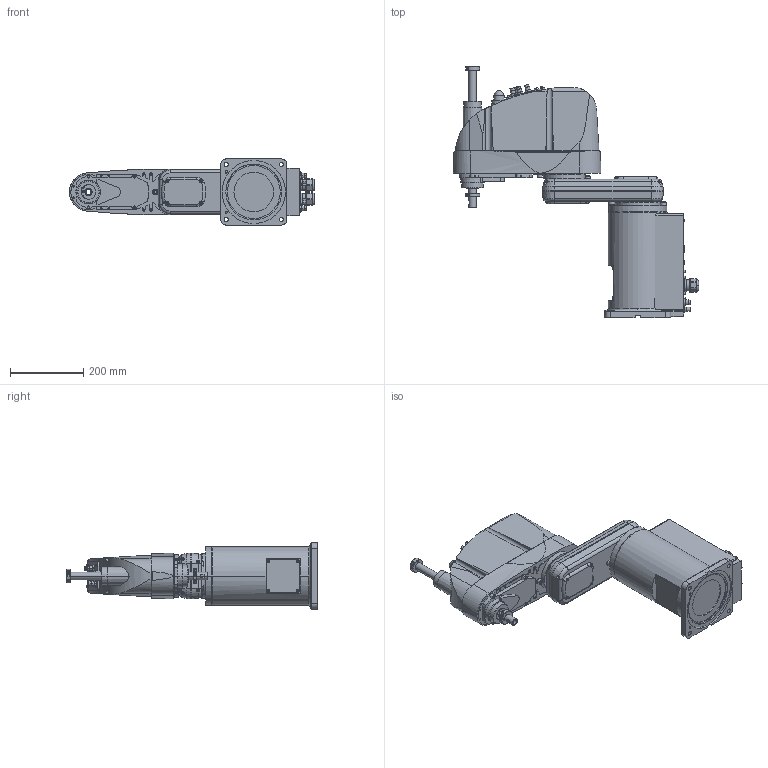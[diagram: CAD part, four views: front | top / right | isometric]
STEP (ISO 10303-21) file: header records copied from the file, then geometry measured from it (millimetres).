
FILE_DESCRIPTION( ( '' ), '1' );
FILE_NAME( '//expscmdclustefs.cadenas.external/client_exchange/iodir/jobs/output/wkb51513285_no0/STEP/G6_451S_2_14b.stp', '2012-11-22T15:58:34', ( '' ), ( '' ), ' ', ' ', ' ' );
FILE_SCHEMA( ( 'automotive_design' ) );
Length unit declared in the file: millimetre
Products named in the file (4): 1; 2; 3; 4
Bounding box: 667.5 x 684 x 180 mm (x, y, z)
Volume: 19232009.1 mm3; surface area: 837369.8 mm2
Topology: 4 solids, 4 shells, 1576 faces, 3859 edges, 2484 vertices
Faces by surface type: plane 789, cylinder 533, cone 194, torus 59, sphere 1
Entity records: 93192 total; most frequent: CARTESIAN_POINT 10813, DIRECTION 8240, STYLED_ITEM 7897, PRESENTATION_STYLE_ASSIGNMENT 7897, COLOUR_RGB 7897, ORIENTED_EDGE 7666, EDGE_CURVE 3833, CURVE_STYLE 3833
